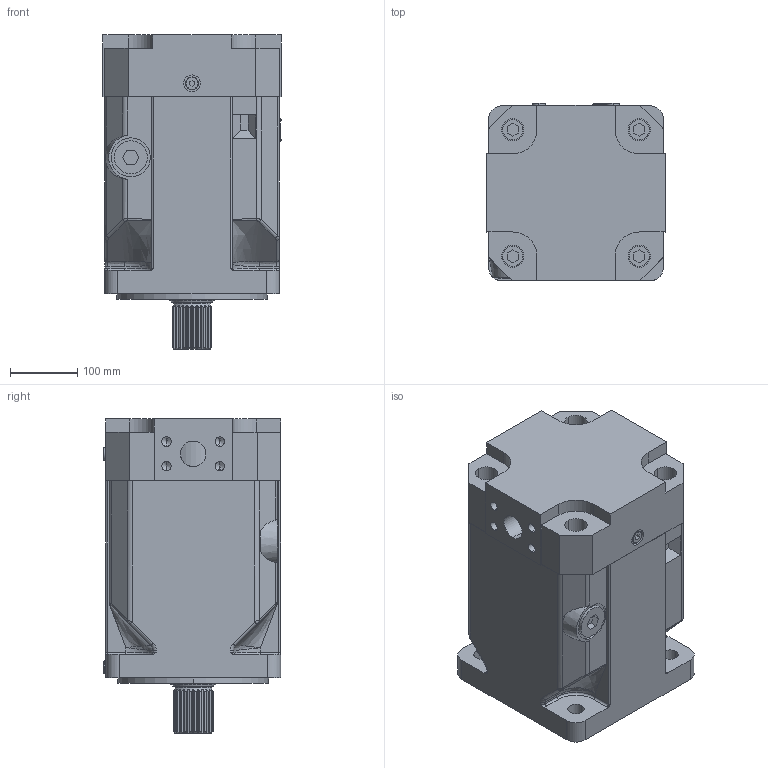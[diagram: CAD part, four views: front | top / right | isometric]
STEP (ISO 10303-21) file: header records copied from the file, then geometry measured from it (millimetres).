
FILE_DESCRIPTION (( 'STEP AP214' ), '1' );
FILE_NAME ('KD-A4FM250.STEP', '2022-11-15T09:05:07', ( '' ), ( '' ), 'SwSTEP 2.0', 'SolidWorks 2015', '' );
FILE_SCHEMA (( 'AUTOMOTIVE_DESIGN' ));
Length unit declared in the file: millimetre
Products named in the file (24): 穩隊 2X5ㄗGㄘ; A4FO250上壳体-成品三维; Nld-M8X40; KD-A4FM250; 80080700002.01 传动轴密封盖组件; 80000401002-09 誹霜黑芛; A4FO250奻褲极郪璃; 80080700002.01-01 換雄粣躇猾裔; 250-T8000-05V04粣裔す菜; A4FM250-02綴裔; A4VSO250換雄粣枎棟遠; 孔用弹性挡圈 DIN 472 - 90X3(G); A4FM250-02綴裔郪璃; A4FO250換雄粣郪璃; 圆柱销 10X20（250）; ZuHeDian8; A4VSO250湮粣創_Roller bearing DIN 635 - 20214; NeiLuoSai M14X1.5-X; Nld-M8X25; 掙梓齪ㄗ355); NeiLuoSai M42X2; 250-BABSL70X90X7-FKMSIMRIT; Nld-M20X50; A4FO250传动轴（花键）
Assembly tree (38 placements, depth 4):
  KD-A4FM250
    A4FO250奻褲极郪璃
      A4FO250上壳体-成品三维
      A4FO250換雄粣郪璃
        A4VSO250換雄粣枎棟遠
        A4VSO250湮粣創_Roller bearing DIN 635 - 20214
        A4FO250传动轴（花键）
      80080700002.01 传动轴密封盖组件
        80080700002.01-01 換雄粣躇猾裔
        250-BABSL70X90X7-FKMSIMRIT
        250-T8000-05V04粣裔す菜
        孔用弹性挡圈 DIN 472 - 90X3(G)
      Nld-M8X40
      80000401002-09 誹霜黑芛
      掙梓齪ㄗ355)
      穩隊 2X5ㄗGㄘ  x4
      ZuHeDian8  x4
      Nld-M8X25  x4
      NeiLuoSai M14X1.5-X
      NeiLuoSai M42X2
    A4FM250-02綴裔郪璃
      A4FM250-02綴裔
      Nld-M20X50  x4
      圆柱销 10X20（250）
      NeiLuoSai M14X1.5-X  x3
Bounding box: 265 x 263.5 x 467 mm (x, y, z)
Volume: 13452180 mm3; surface area: 1405615.7 mm2
Topology: 46 solids, 56 shells, 3466 faces, 8544 edges, 5417 vertices
Faces by surface type: plane 1465, cylinder 738, bspline 562, cone 503, torus 188, sphere 10
Entity records: 126180 total; most frequent: CARTESIAN_POINT 55778, ORIENTED_EDGE 14870, DIRECTION 12462, EDGE_CURVE 7441, VERTEX_POINT 4823, VECTOR 4248, LINE 4248, AXIS2_PLACEMENT_3D 4107
